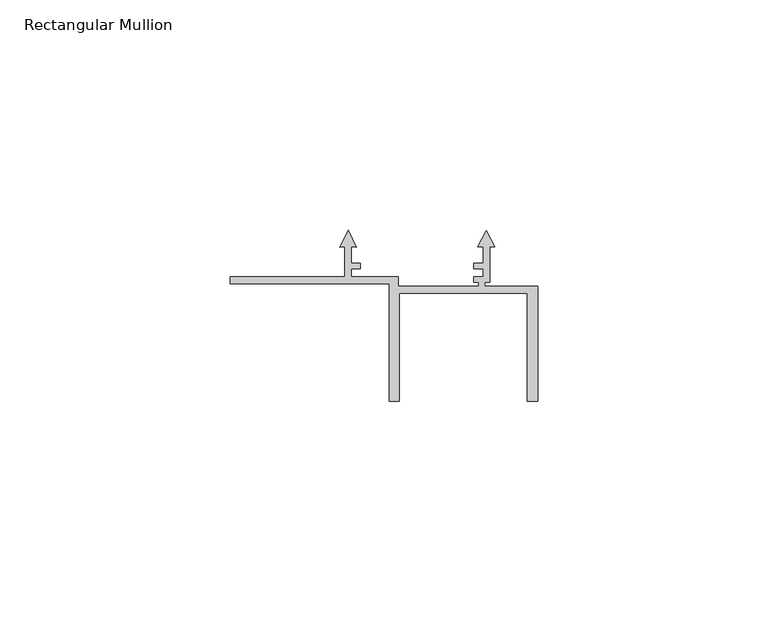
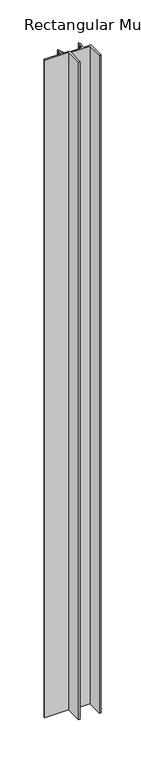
"""IFC4 building model written with IfcOpenShell, lengths in millimetres: member geometry, Rectangular Mullion : Renson_Linarte_LA-E25-01."""

from ifc_helpers import new_model, si_unit, frame, origin, place, context, project, spatial, polyline, outline, extrude, source, transform, mapped, element, save


def rectangular_mullion_1797d992(model_context):
    return source(origin(), model_context, "Body", "SweptSolid", [
        extrude(outline(polyline([(-66.6, -36.1000494), (-66.6, -34.6000494), (-41.8, -34.6000494), (-41.8, -28.0071867), (-42.9255299, -28.1056578), (-41.0999986, -24.5228474), (-39.2744672, -28.1056581), (-40.3999998, -28.0071867), (-40.3999998, -31.599221), (-38.4077357, -31.599221), (-38.4077357, -32.8000494), (-40.3999995, -32.8000494), (-40.3999995, -34.6000494), (-30.1732051, -34.6000494), (-30.1732051, -36.6000494), (-12.8, -36.6000494), (-12.8, -35.8015754), (-13.7880766, -35.8015754), (-13.7880766, -34.6000494), (-11.8091794, -34.6000494), (-11.8091794, -32.8000494), (-13.7875618, -32.8000494), (-13.7875618, -31.5979618), (-11.7999987, -31.5979618), (-11.7999987, -28.0038712), (-12.9157351, -28.1014855), (-11.0999986, -24.537898), (-9.284262, -28.1014855), (-10.3999985, -28.0038712), (-10.3999985, -35.8015754), (-11.4, -35.8015754), (-11.4, -36.6000494), (0.0, -36.6000494), (0.0, -61.6000494), (-2.2, -61.6000494), (-2.2, -38.1000494), (-30.0, -38.1000494), (-30.0, -61.6000494), (-32.2, -61.6000494), (-32.2, -36.1000494), (-66.6, -36.1000494)])), frame((0.0, 0.0, -1000.0), z_axis=(0.0, 0.0, 1.0), x_axis=(1.0, 0.0, 0.0)), (0.0, 0.0, 1.0), 1000.0),
    ])


if __name__ == "__main__":
    model = new_model("IFC4")
    model_context = context("Model", 3, world=origin())
    ifc_project = project(units=[si_unit("LENGTHUNIT", "METRE", prefix="MILLI")], contexts=[model_context])
    site = spatial("IfcSite", under=ifc_project)
    building = spatial("IfcBuilding", under=site)
    placement = place(None, origin())
    rectangular_mullion_shape = rectangular_mullion_1797d992(model_context)
    element("IfcMember", 1, ObjectType="Rectangular Mullion : Renson_Linarte_LA-E25-01", at=placement, inside=building, context=model_context, shape_type="MappedRepresentation", body=[
        mapped(rectangular_mullion_shape, transform((0.0, 0.0, 0.0), x_axis=(1.0, 0.0, 0.0), y_axis=(0.0, 1.0, 0.0), z_axis=(0.0, 0.0, 1.0))),
    ])
    save(model, "model.ifc")
